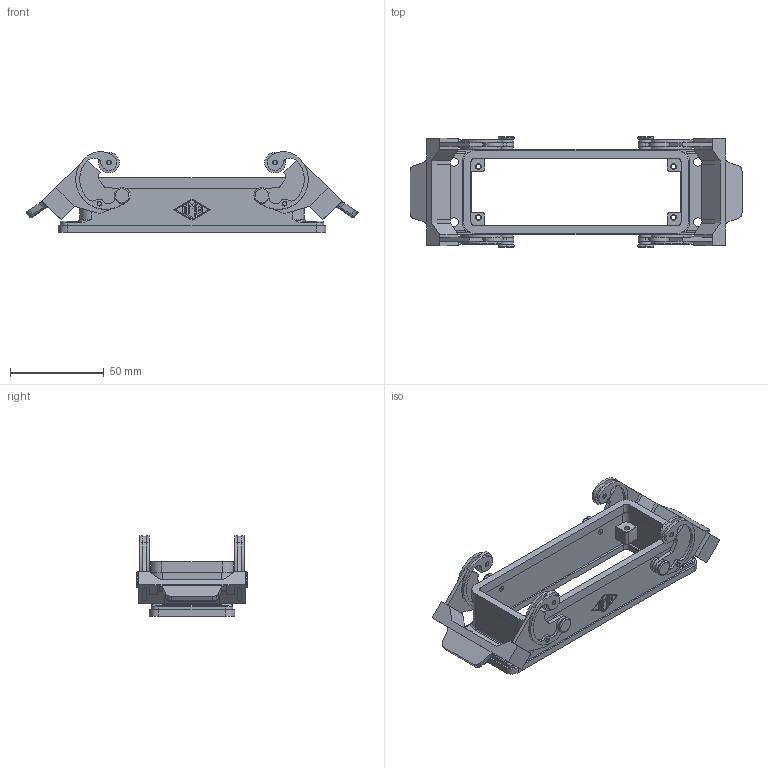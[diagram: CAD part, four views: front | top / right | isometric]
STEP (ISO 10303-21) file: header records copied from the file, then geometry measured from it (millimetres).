
FILE_DESCRIPTION((''),'2;1');
FILE_NAME('B:\MITARBEITER\Gembarski\Inventor\TEMP\Konvertierungsformate\ILME\CH\2-1\IPT\STP\CHI 24.stp','2007-04-26T09:33:59',('gembarski'),(''),'Autodesk Inventor 7','Autodesk Inventor 7','');
FILE_SCHEMA(('AUTOMOTIVE_DESIGN { 1 0 10303 214 1 1 1 1 }'));
Length unit declared in the file: millimetre
Products named in the file (1): CHI 24
Bounding box: 176.99 x 59 x 42.94 mm (x, y, z)
Volume: 58495 mm3; surface area: 40503.8 mm2
Topology: 1 solids, 5 shells, 749 faces, 1995 edges, 1302 vertices
Faces by surface type: bspline 296, cylinder 220, plane 201, torus 28, cone 4
Entity records: 27938 total; most frequent: CARTESIAN_POINT 9307, ORIENTED_EDGE 3990, DIRECTION 3859, EDGE_CURVE 1995, AXIS2_PLACEMENT_3D 1438, VERTEX_POINT 1302, VECTOR 983, LINE 983
